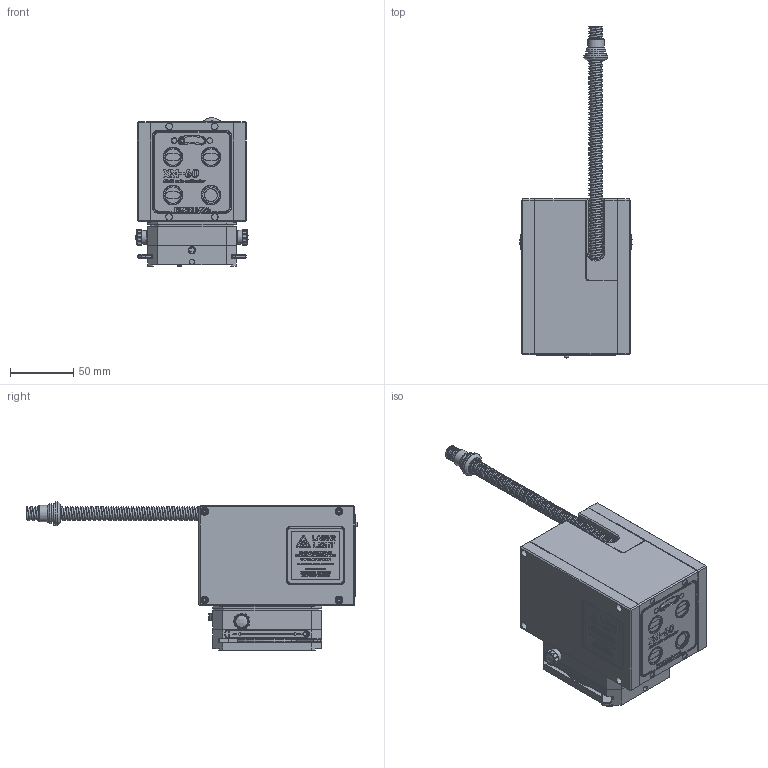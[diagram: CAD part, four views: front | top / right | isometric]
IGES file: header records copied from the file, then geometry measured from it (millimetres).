
Global section: file name: Y:\_LCPD Drawings\13.1 Lightweight Models\5103\LA-5103-3800  LAUNCH ASSY\LA-5103-3800  LAUNCH ASSY.igs; native system: NX V10.0; preprocessor: SIEMENS PLM Software NX 10.0; date: 20170627.151538; units: millimetre
Bounding box: 88.6 x 261.91 x 117.11 mm (x, y, z)
Surface area: 84321 mm2 (no closed solid volume)
Topology: 0 solids, 0 shells, 1631 faces, 16422 edges, 16372 vertices
Faces by surface type: bspline 1631
